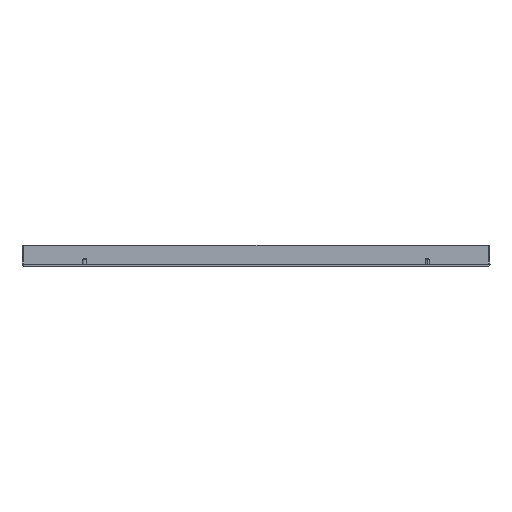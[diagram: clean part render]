
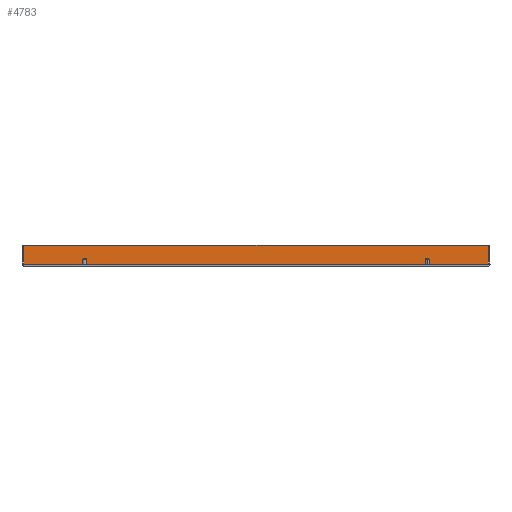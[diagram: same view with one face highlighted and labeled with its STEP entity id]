
A CAD part, front view. The second image highlights one B-rep face of the part: STEP entity #4783.
In plain terms, the highlighted planar face has unit normal (0, -1, 0).
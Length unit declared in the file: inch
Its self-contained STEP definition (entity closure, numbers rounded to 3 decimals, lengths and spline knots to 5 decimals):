
#76 = CARTESIAN_POINT ( 'NONE',  ( -1.192, 31.746, -333.086 ) ) ;
#315 = CARTESIAN_POINT ( 'NONE',  ( -1.192, 31.746, 14.51893 ) ) ;
#358 = CARTESIAN_POINT ( 'NONE',  ( -1.192, 31.746, -14.51893 ) ) ;
#490 = PLANE ( 'NONE',  #4863 ) ;
#610 = DIRECTION ( 'NONE',  ( 1., 0., 0. ) ) ;
#987 = DIRECTION ( 'NONE',  ( 0., -1., 0. ) ) ;
#1041 = DIRECTION ( 'NONE',  ( 1., 0., 0. ) ) ;
#1175 = DIRECTION ( 'NONE',  ( -1., 0., 0. ) ) ;
#1700 = VERTEX_POINT ( 'NONE', #2531 ) ;
#1720 = VERTEX_POINT ( 'NONE', #2306 ) ;
#1834 = VERTEX_POINT ( 'NONE', #2489 ) ;
#1880 = CARTESIAN_POINT ( 'NONE',  ( -1.192, 31.746, 14.51893 ) ) ;
#2000 = VERTEX_POINT ( 'NONE', #1880 ) ;
#2306 = CARTESIAN_POINT ( 'NONE',  ( -1.192, 31.746, -14.51893 ) ) ;
#2489 = CARTESIAN_POINT ( 'NONE',  ( -0.03, 31.746, -14.51893 ) ) ;
#2531 = CARTESIAN_POINT ( 'NONE',  ( -0.03, 31.746, 14.51893 ) ) ;
#2574 = VECTOR ( 'NONE', #6439, 39.37008 ) ;
#2587 = LINE ( 'NONE', #315, #2808 ) ;
#2808 = VECTOR ( 'NONE', #1175, 39.37008 ) ;
#3240 = LINE ( 'NONE', #5812, #2574 ) ;
#3271 = VECTOR ( 'NONE', #5911, 39.37008 ) ;
#3273 = LINE ( 'NONE', #6350, #3271 ) ;
#3437 = VECTOR ( 'NONE', #1041, 39.37008 ) ;
#3672 = ORIENTED_EDGE ( 'NONE', *, *, #5107, .T. ) ;
#3788 = ORIENTED_EDGE ( 'NONE', *, *, #5595, .F. ) ;
#3807 = ORIENTED_EDGE ( 'NONE', *, *, #5242, .T. ) ;
#3867 = ORIENTED_EDGE ( 'NONE', *, *, #5574, .T. ) ;
#4119 = LINE ( 'NONE', #358, #3437 ) ;
#4168 = EDGE_LOOP ( 'NONE', ( #3867, #3807, #3788, #3672 ) ) ;
#4783 = ADVANCED_FACE ( 'NONE', ( #5708 ), #490, .T. ) ;
#4863 = AXIS2_PLACEMENT_3D ( 'NONE', #76, #987, #610 ) ;
#5107 = EDGE_CURVE ( 'NONE', #1720, #1834, #4119, .T. ) ;
#5242 = EDGE_CURVE ( 'NONE', #1700, #2000, #2587, .T. ) ;
#5574 = EDGE_CURVE ( 'NONE', #1834, #1700, #3273, .T. ) ;
#5595 = EDGE_CURVE ( 'NONE', #1720, #2000, #3240, .T. ) ;
#5708 = FACE_OUTER_BOUND ( 'NONE', #4168, .T. ) ;
#5812 = CARTESIAN_POINT ( 'NONE',  ( -1.192, 31.746, -333.086 ) ) ;
#5911 = DIRECTION ( 'NONE',  ( 0., 0., 1. ) ) ;
#6350 = CARTESIAN_POINT ( 'NONE',  ( -0.03, 31.746, -333.086 ) ) ;
#6439 = DIRECTION ( 'NONE',  ( 0., 0., 1. ) ) ;
